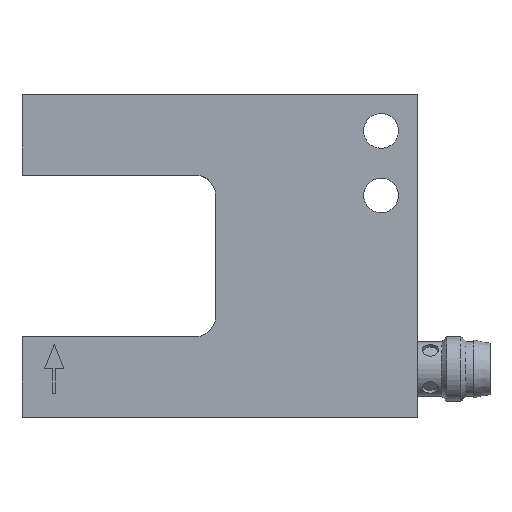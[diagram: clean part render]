
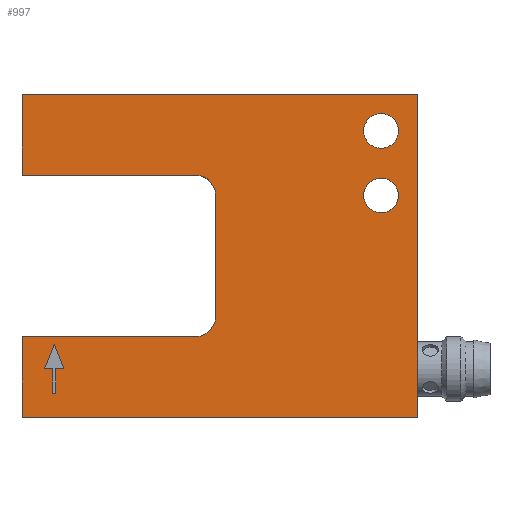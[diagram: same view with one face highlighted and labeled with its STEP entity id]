
A CAD part, top view. The second image highlights one B-rep face of the part: STEP entity #997.
In plain terms, the highlighted planar face has unit normal (0, 0, 1).
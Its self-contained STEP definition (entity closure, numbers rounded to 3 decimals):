
#52=FACE_BOUND('',#138,.T.);
#53=FACE_BOUND('',#139,.T.);
#54=FACE_BOUND('',#140,.T.);
#73=FACE_OUTER_BOUND('',#137,.T.);
#137=EDGE_LOOP('',(#678,#679,#680,#681,#682,#683,#684,#685,#686,#687));
#138=EDGE_LOOP('',(#688));
#139=EDGE_LOOP('',(#689));
#140=EDGE_LOOP('',(#690,#691,#692,#693,#694,#695,#696));
#222=CIRCLE('',#1082,2.5);
#223=CIRCLE('',#1083,2.5);
#224=CIRCLE('',#1084,2.15);
#225=CIRCLE('',#1085,2.15);
#273=LINE('',#1515,#356);
#274=LINE('',#1519,#357);
#275=LINE('',#1523,#358);
#276=LINE('',#1525,#359);
#277=LINE('',#1527,#360);
#278=LINE('',#1529,#361);
#279=LINE('',#1531,#362);
#280=LINE('',#1532,#363);
#281=LINE('',#1539,#364);
#282=LINE('',#1541,#365);
#283=LINE('',#1543,#366);
#284=LINE('',#1545,#367);
#285=LINE('',#1547,#368);
#286=LINE('',#1549,#369);
#287=LINE('',#1550,#370);
#356=VECTOR('',#1200,1.);
#357=VECTOR('',#1203,1.);
#358=VECTOR('',#1206,1.);
#359=VECTOR('',#1207,10.);
#360=VECTOR('',#1208,1.);
#361=VECTOR('',#1209,10.);
#362=VECTOR('',#1210,1.);
#363=VECTOR('',#1211,10.);
#364=VECTOR('',#1216,1.);
#365=VECTOR('',#1217,1.);
#366=VECTOR('',#1218,1.);
#367=VECTOR('',#1219,1.);
#368=VECTOR('',#1220,1.);
#369=VECTOR('',#1221,1.);
#370=VECTOR('',#1222,1.);
#439=VERTEX_POINT('',#1513);
#440=VERTEX_POINT('',#1514);
#441=VERTEX_POINT('',#1516);
#442=VERTEX_POINT('',#1518);
#443=VERTEX_POINT('',#1520);
#444=VERTEX_POINT('',#1522);
#445=VERTEX_POINT('',#1524);
#446=VERTEX_POINT('',#1526);
#447=VERTEX_POINT('',#1528);
#448=VERTEX_POINT('',#1530);
#449=VERTEX_POINT('',#1533);
#450=VERTEX_POINT('',#1535);
#451=VERTEX_POINT('',#1537);
#452=VERTEX_POINT('',#1538);
#453=VERTEX_POINT('',#1540);
#454=VERTEX_POINT('',#1542);
#455=VERTEX_POINT('',#1544);
#456=VERTEX_POINT('',#1546);
#457=VERTEX_POINT('',#1548);
#536=EDGE_CURVE('',#439,#440,#273,.T.);
#537=EDGE_CURVE('',#440,#441,#222,.T.);
#538=EDGE_CURVE('',#441,#442,#274,.T.);
#539=EDGE_CURVE('',#442,#443,#223,.T.);
#540=EDGE_CURVE('',#443,#444,#275,.T.);
#541=EDGE_CURVE('',#445,#444,#276,.T.);
#542=EDGE_CURVE('',#445,#446,#277,.T.);
#543=EDGE_CURVE('',#446,#447,#278,.T.);
#544=EDGE_CURVE('',#447,#448,#279,.T.);
#545=EDGE_CURVE('',#439,#448,#280,.T.);
#546=EDGE_CURVE('',#449,#449,#224,.T.);
#547=EDGE_CURVE('',#450,#450,#225,.T.);
#548=EDGE_CURVE('',#451,#452,#281,.T.);
#549=EDGE_CURVE('',#452,#453,#282,.T.);
#550=EDGE_CURVE('',#453,#454,#283,.T.);
#551=EDGE_CURVE('',#454,#455,#284,.T.);
#552=EDGE_CURVE('',#455,#456,#285,.T.);
#553=EDGE_CURVE('',#456,#457,#286,.T.);
#554=EDGE_CURVE('',#457,#451,#287,.T.);
#678=ORIENTED_EDGE('',*,*,#536,.T.);
#679=ORIENTED_EDGE('',*,*,#537,.T.);
#680=ORIENTED_EDGE('',*,*,#538,.T.);
#681=ORIENTED_EDGE('',*,*,#539,.T.);
#682=ORIENTED_EDGE('',*,*,#540,.T.);
#683=ORIENTED_EDGE('',*,*,#541,.F.);
#684=ORIENTED_EDGE('',*,*,#542,.T.);
#685=ORIENTED_EDGE('',*,*,#543,.T.);
#686=ORIENTED_EDGE('',*,*,#544,.T.);
#687=ORIENTED_EDGE('',*,*,#545,.F.);
#688=ORIENTED_EDGE('',*,*,#546,.F.);
#689=ORIENTED_EDGE('',*,*,#547,.F.);
#690=ORIENTED_EDGE('',*,*,#548,.T.);
#691=ORIENTED_EDGE('',*,*,#549,.T.);
#692=ORIENTED_EDGE('',*,*,#550,.T.);
#693=ORIENTED_EDGE('',*,*,#551,.T.);
#694=ORIENTED_EDGE('',*,*,#552,.T.);
#695=ORIENTED_EDGE('',*,*,#553,.T.);
#696=ORIENTED_EDGE('',*,*,#554,.T.);
#962=PLANE('',#1081);
#997=ADVANCED_FACE('',(#73,#52,#53,#54),#962,.T.);
#1081=AXIS2_PLACEMENT_3D('',#1512,#1198,#1199);
#1082=AXIS2_PLACEMENT_3D('',#1517,#1201,#1202);
#1083=AXIS2_PLACEMENT_3D('',#1521,#1204,#1205);
#1084=AXIS2_PLACEMENT_3D('',#1534,#1212,#1213);
#1085=AXIS2_PLACEMENT_3D('',#1536,#1214,#1215);
#1198=DIRECTION('center_axis',(0.,0.,1.));
#1199=DIRECTION('ref_axis',(1.,0.,0.));
#1200=DIRECTION('',(1.,0.,0.));
#1201=DIRECTION('center_axis',(0.,0.,-1.));
#1202=DIRECTION('ref_axis',(0.,1.,0.));
#1203=DIRECTION('',(0.,-1.,0.));
#1204=DIRECTION('center_axis',(0.,0.,-1.));
#1205=DIRECTION('ref_axis',(1.,0.,0.));
#1206=DIRECTION('',(-1.,0.,0.));
#1207=DIRECTION('',(0.,1.,0.));
#1208=DIRECTION('',(1.,0.,0.));
#1209=DIRECTION('',(0.,1.,0.));
#1210=DIRECTION('',(-1.,0.,0.));
#1211=DIRECTION('',(0.,1.,0.));
#1212=DIRECTION('center_axis',(0.,0.,1.));
#1213=DIRECTION('ref_axis',(1.,0.,0.));
#1214=DIRECTION('center_axis',(0.,0.,1.));
#1215=DIRECTION('ref_axis',(1.,0.,0.));
#1216=DIRECTION('',(0.,1.,0.));
#1217=DIRECTION('',(-1.,0.,0.));
#1218=DIRECTION('',(0.371,0.928,0.));
#1219=DIRECTION('',(0.371,-0.928,0.));
#1220=DIRECTION('',(-1.,0.,0.));
#1221=DIRECTION('',(0.,-1.,0.));
#1222=DIRECTION('',(-1.,0.,0.));
#1512=CARTESIAN_POINT('Origin',(-44.5,-29.5,10.));
#1513=CARTESIAN_POINT('',(-44.5,-5.5,10.));
#1514=CARTESIAN_POINT('',(-23.,-5.5,10.));
#1515=CARTESIAN_POINT('',(-44.,-5.5,10.));
#1516=CARTESIAN_POINT('',(-20.5,-8.,10.));
#1517=CARTESIAN_POINT('Origin',(-23.,-8.,10.));
#1518=CARTESIAN_POINT('',(-20.5,-23.,10.));
#1519=CARTESIAN_POINT('',(-20.5,-8.,10.));
#1520=CARTESIAN_POINT('',(-23.,-25.5,10.));
#1521=CARTESIAN_POINT('Origin',(-23.,-23.,10.));
#1522=CARTESIAN_POINT('',(-44.5,-25.5,10.));
#1523=CARTESIAN_POINT('',(-23.,-25.5,10.));
#1524=CARTESIAN_POINT('',(-44.5,-35.5,10.));
#1525=CARTESIAN_POINT('',(-44.5,-27.75,10.));
#1526=CARTESIAN_POINT('',(4.5,-35.5,10.));
#1527=CARTESIAN_POINT('',(-44.,-35.5,10.));
#1528=CARTESIAN_POINT('',(4.5,4.5,10.));
#1529=CARTESIAN_POINT('',(4.5,-32.25,10.));
#1530=CARTESIAN_POINT('',(-44.5,4.5,10.));
#1531=CARTESIAN_POINT('',(4.,4.5,10.));
#1532=CARTESIAN_POINT('',(-44.5,-12.75,10.));
#1533=CARTESIAN_POINT('',(-2.15,-8.,10.));
#1534=CARTESIAN_POINT('Origin',(0.,-8.,10.));
#1535=CARTESIAN_POINT('',(-2.15,0.,10.));
#1536=CARTESIAN_POINT('Origin',(0.,0.,10.));
#1537=CARTESIAN_POINT('',(-40.7,-32.5,10.));
#1538=CARTESIAN_POINT('',(-40.7,-29.5,10.));
#1539=CARTESIAN_POINT('',(-40.7,-29.5,10.));
#1540=CARTESIAN_POINT('',(-41.7,-29.5,10.));
#1541=CARTESIAN_POINT('',(-43.1,-29.5,10.));
#1542=CARTESIAN_POINT('',(-40.5,-26.5,10.));
#1543=CARTESIAN_POINT('',(-41.293,-28.483,10.));
#1544=CARTESIAN_POINT('',(-39.3,-29.5,10.));
#1545=CARTESIAN_POINT('',(-39.659,-28.603,10.));
#1546=CARTESIAN_POINT('',(-40.3,-29.5,10.));
#1547=CARTESIAN_POINT('',(-42.4,-29.5,10.));
#1548=CARTESIAN_POINT('',(-40.3,-32.5,10.));
#1549=CARTESIAN_POINT('',(-40.3,-31.,10.));
#1550=CARTESIAN_POINT('',(-42.6,-32.5,10.));
